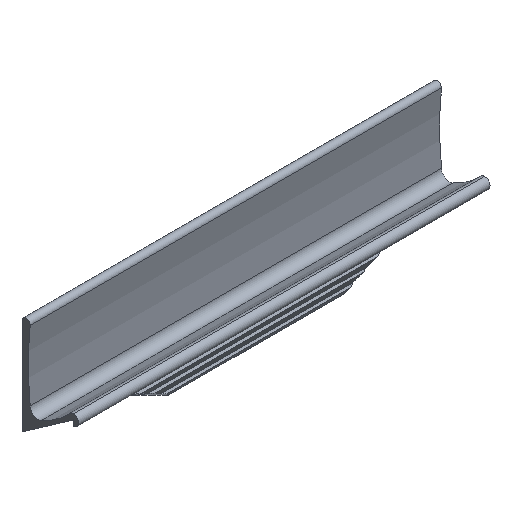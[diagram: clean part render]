
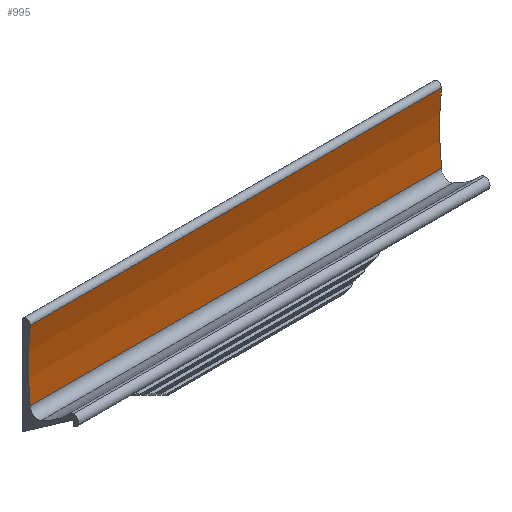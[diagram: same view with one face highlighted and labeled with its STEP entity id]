
A CAD part, isometric view. The second image highlights one B-rep face of the part: STEP entity #995.
In plain terms, the highlighted cylindrical face has radius 124.987 mm (diameter 249.973 mm), a partial arc.
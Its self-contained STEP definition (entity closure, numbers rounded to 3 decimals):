
#718=CARTESIAN_POINT('',(0.0,16.4,-3.523));
#719=VERTEX_POINT('',#718);
#727=CARTESIAN_POINT('',(0.0,16.4,22.896));
#728=VERTEX_POINT('',#727);
#729=CARTESIAN_POINT('',(0.0,-107.887,9.686));
#730=DIRECTION('',(1.0,0.0,0.0));
#731=DIRECTION('',(0.0,1.0,0.0));
#732=AXIS2_PLACEMENT_3D('',#729,#730,#731);
#733=CIRCLE('',#732,124.987);
#734=EDGE_CURVE('',#719,#728,#733,.T.);
#768=CARTESIAN_POINT('',(156.0,16.4,22.896));
#769=VERTEX_POINT('',#768);
#777=CARTESIAN_POINT('',(156.0,16.4,-3.523));
#778=VERTEX_POINT('',#777);
#779=CARTESIAN_POINT('',(156.0,-107.887,9.686));
#780=DIRECTION('',(-1.0,0.0,0.0));
#781=DIRECTION('',(0.0,1.0,0.0));
#782=AXIS2_PLACEMENT_3D('',#779,#780,#781);
#783=CIRCLE('',#782,124.987);
#784=EDGE_CURVE('',#769,#778,#783,.T.);
#970=CARTESIAN_POINT('',(3.666,16.4,22.896));
#971=DIRECTION('',(-1.0,0.0,0.0));
#972=VECTOR('',#971,156.0);
#973=LINE('',#970,#972);
#974=EDGE_CURVE('',#769,#728,#973,.T.);
#979=CARTESIAN_POINT('',(152.334,-107.887,9.686));
#980=DIRECTION('',(-1.0,0.0,0.0));
#981=DIRECTION('',(0.0,1.0,0.0));
#982=AXIS2_PLACEMENT_3D('',#979,#980,#981);
#983=CYLINDRICAL_SURFACE('',#982,124.987);
#984=ORIENTED_EDGE('',*,*,#784,.F.);
#985=ORIENTED_EDGE('',*,*,#974,.T.);
#986=ORIENTED_EDGE('',*,*,#734,.F.);
#987=CARTESIAN_POINT('',(3.666,16.4,-3.523));
#988=DIRECTION('',(-1.0,0.0,0.0));
#989=VECTOR('',#988,156.0);
#990=LINE('',#987,#989);
#991=EDGE_CURVE('',#778,#719,#990,.T.);
#992=ORIENTED_EDGE('',*,*,#991,.F.);
#993=EDGE_LOOP('',(#984,#985,#986,#992));
#994=FACE_OUTER_BOUND('',#993,.T.);
#995=ADVANCED_FACE('',(#994),#983,.F.);
